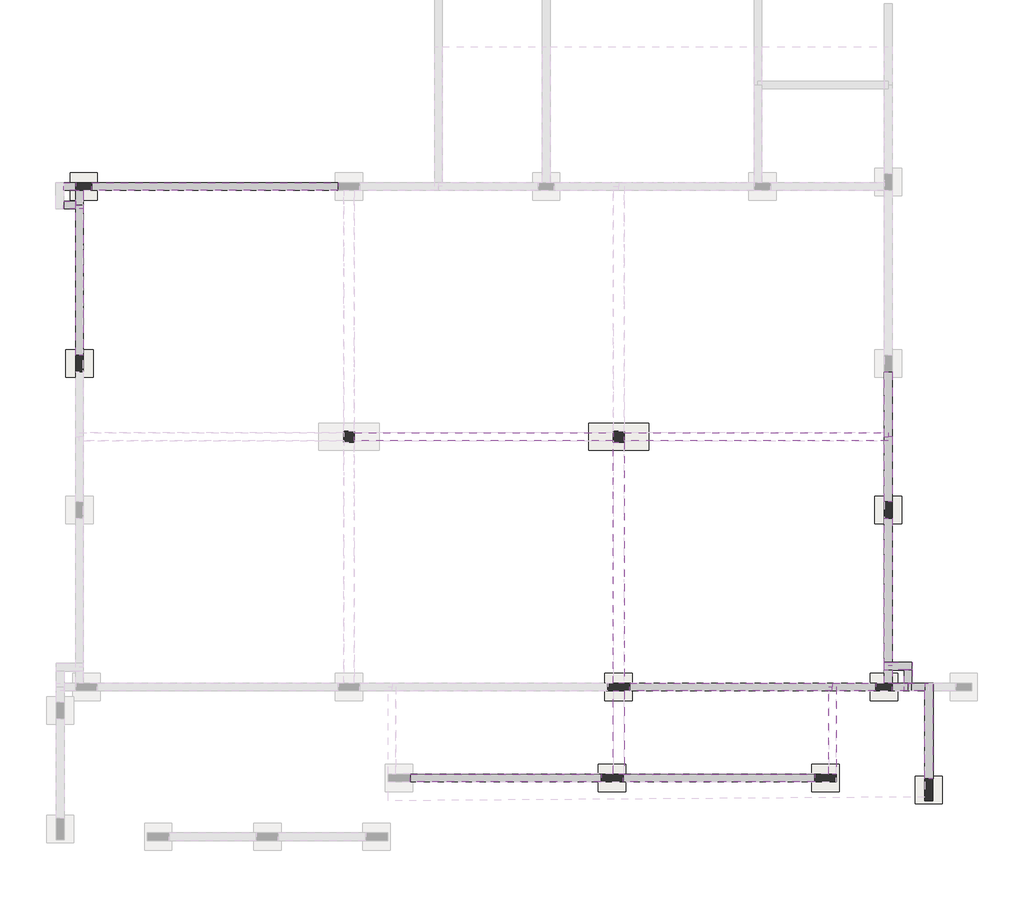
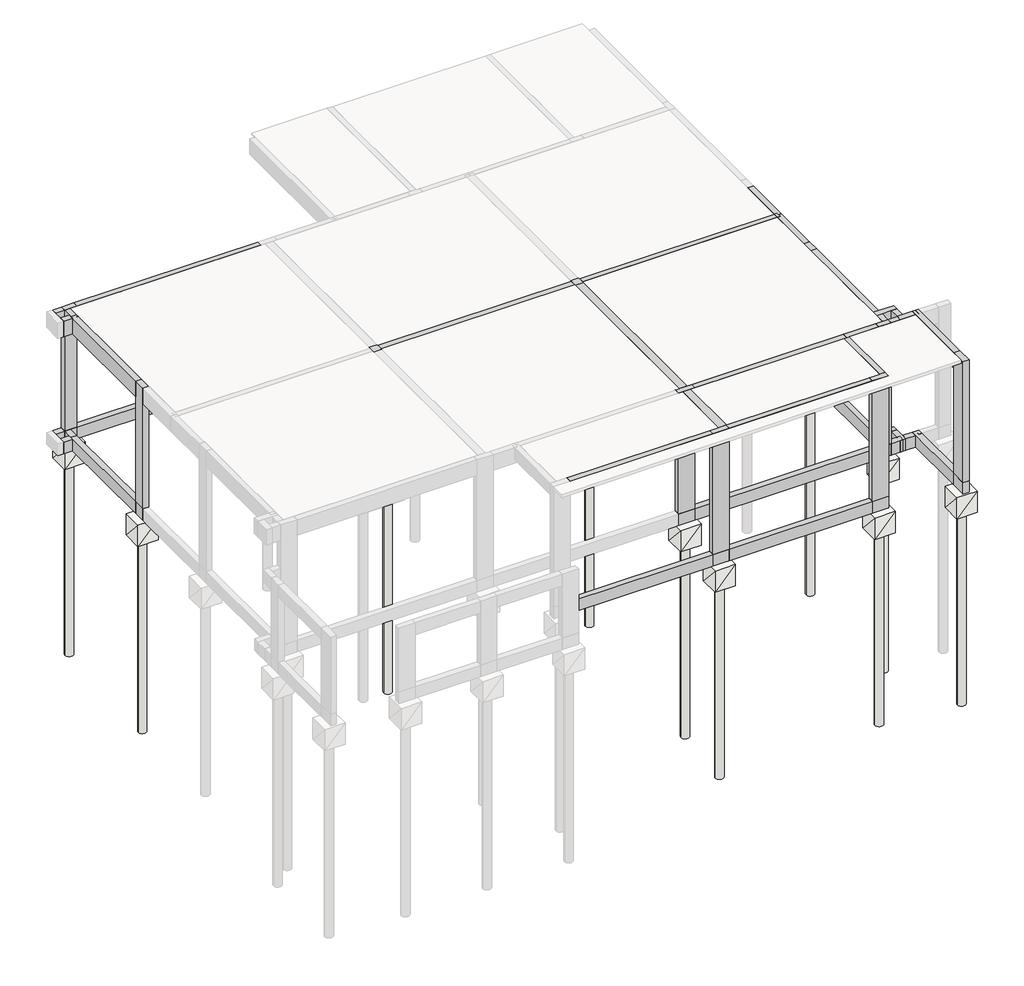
# One storey, part 2 of 3: 39 proxies, 20 columns, 20 slabs.
"""IFC4 building model written with IfcOpenShell, lengths in millimetres."""

from ifc_helpers import new_model, si_unit, frame, origin, place, context, project, spatial, polyline, outline, extrude, transform, mapped, element, save
from components import structural_framing_e2bcf46b, structural_framing_dbc896d8, structural_framing_8cd2586b, structural_framing_c78f2c7d, structural_framing_77b6ca6f, structural_framing_01de5d5a, structural_framing_92e5dd7b, structural_framing_e2ff165e, structural_framing_396bdc43, structural_framing_1b4c9a45, structural_framing_762ff612, structural_framing_144cb592, structural_framing_94598072, structural_framing_03c9d15c, structural_framing_dc82caa1, structural_framing_e9acf34c, structural_framing_6a9002ec, structural_framing_b230c8f5, structural_framing_8dfd1342, structural_framing_fc09ec62, structural_framing_2e8c135f, structural_framing_80dcf587, structural_framing_5a2c5dd1, structural_framing_e8406c5c, structural_framing_6d77a632, structural_framing_6e80b120, structural_framing_b381d96e, structural_framing_4ba866ab, structural_framing_17b98802, structural_framing_75dd6a97, structural_framing_b8469727, structural_framing_5bd5179d, structural_framing_b4b4ddb9, structural_framing_fa4ca75f, structural_framing_bc256635, structural_framing_0044cacd, slab_c764ccaf, slab_1d791855, slab_b31ccf51, slab_4ca8f48c

model = new_model("IFC4")

# Units and contexts
model_context = context("Model", 3, world=origin())
ifc_project = project(units=[si_unit("LENGTHUNIT", "METRE", prefix="MILLI")], contexts=[model_context])

# Site, building, storey
site = spatial("IfcSite", under=ifc_project)
building = spatial("IfcBuilding", under=site)
storey = spatial("IfcBuildingStorey", under=building, Name="BALDRAME-FUNDAÇÃO", Elevation=240.0)

# Proxies
placement = place(None, origin())
structural_framing_shape = structural_framing_e2bcf46b(model_context)
element("IfcBuildingElementProxy", 1, Name="Structural Framing", at=placement, inside=storey, context=model_context, shape_type="MappedRepresentation", body=[
    mapped(structural_framing_shape, transform((12564.05, 2810.0, 240.0), x_axis=(1.0, 0.0, 0.0), y_axis=(0.0, 1.0, 0.0), z_axis=(0.0, 0.0, 1.0))),
])
structural_framing_2_shape = structural_framing_dbc896d8(model_context)
element("IfcBuildingElementProxy", 2, Name="Structural Framing", at=placement, inside=storey, context=model_context, shape_type="MappedRepresentation", body=[
    mapped(structural_framing_2_shape, transform((15589.6, 2810.0, 240.0), x_axis=(1.0, 0.0, 0.0), y_axis=(0.0, 1.0, 0.0), z_axis=(0.0, 0.0, 1.0))),
])
structural_framing_3_shape = structural_framing_8cd2586b(model_context)
element("IfcBuildingElementProxy", 3, Name="Structural Framing", at=placement, inside=storey, context=model_context, shape_type="MappedRepresentation", body=[
    mapped(structural_framing_3_shape, transform((15256.85, 2810.0, 240.0), x_axis=(1.0, 0.0, 0.0), y_axis=(0.0, 1.0, 0.0), z_axis=(0.0, 0.0, 1.0))),
])
structural_framing_4_shape = structural_framing_c78f2c7d(model_context)
element("IfcBuildingElementProxy", 4, Name="Structural Framing", at=placement, inside=storey, context=model_context, shape_type="MappedRepresentation", body=[
    mapped(structural_framing_4_shape, transform((85.0, 11955.2, 240.0), x_axis=(1.0, 0.0, 0.0), y_axis=(0.0, 1.0, 0.0), z_axis=(0.0, 0.0, 1.0))),
])
structural_framing_5_shape = structural_framing_77b6ca6f(model_context)
element("IfcBuildingElementProxy", 5, Name="Structural Framing", at=placement, inside=storey, context=model_context, shape_type="MappedRepresentation", body=[
    mapped(structural_framing_5_shape, transform((2742.8, 11955.2, 240.0), x_axis=(1.0, 0.0, 0.0), y_axis=(0.0, 1.0, 0.0), z_axis=(0.0, 0.0, 1.0))),
])
structural_framing_6_shape = structural_framing_01de5d5a(model_context)
element("IfcBuildingElementProxy", 6, Name="Structural Framing", at=placement, inside=storey, context=model_context, shape_type="MappedRepresentation", body=[
    mapped(structural_framing_6_shape, transform((15041.8, 4542.5, 240.0), x_axis=(1.0, 0.0, 0.0), y_axis=(0.0, 1.0, 0.0), z_axis=(0.0, 0.0, 1.0))),
])
structural_framing_7_shape = structural_framing_92e5dd7b(model_context)
element("IfcBuildingElementProxy", 7, Name="Structural Framing", at=placement, inside=storey, context=model_context, shape_type="MappedRepresentation", body=[
    mapped(structural_framing_7_shape, transform((15041.8, 3000.0, 240.0), x_axis=(1.0, 0.0, 0.0), y_axis=(0.0, 1.0, 0.0), z_axis=(0.0, 0.0, 1.0))),
])
structural_framing_8_shape = structural_framing_e2ff165e(model_context)
element("IfcBuildingElementProxy", 8, Name="Structural Framing", at=placement, inside=storey, context=model_context, shape_type="MappedRepresentation", body=[
    mapped(structural_framing_8_shape, transform((15787.3, 2005.0, 240.0), x_axis=(1.0, 0.0, 0.0), y_axis=(0.0, 1.0, 0.0), z_axis=(0.0, 0.0, 1.0))),
])
structural_framing_9_shape = structural_framing_396bdc43(model_context)
element("IfcBuildingElementProxy", 9, Name="Structural Framing", at=placement, inside=storey, context=model_context, shape_type="MappedRepresentation", body=[
    mapped(structural_framing_9_shape, transform((15041.8, 7382.6, 240.0), x_axis=(1.0, 0.0, 0.0), y_axis=(0.0, 1.0, 0.0), z_axis=(0.0, 0.0, 1.0))),
])
structural_framing_10_shape = structural_framing_1b4c9a45(model_context)
element("IfcBuildingElementProxy", 10, Name="Structural Framing", at=placement, inside=storey, context=model_context, shape_type="MappedRepresentation", body=[
    mapped(structural_framing_10_shape, transform((15221.85, 3190.0, 240.0), x_axis=(1.0, 0.0, 0.0), y_axis=(0.0, 1.0, 0.0), z_axis=(0.0, 0.0, 1.0))),
])
structural_framing_11_shape = structural_framing_762ff612(model_context)
element("IfcBuildingElementProxy", 11, Name="Structural Framing", at=placement, inside=storey, context=model_context, shape_type="MappedRepresentation", body=[
    mapped(structural_framing_11_shape, transform((15401.9, 2930.0, 240.0), x_axis=(1.0, 0.0, 0.0), y_axis=(0.0, 1.0, 0.0), z_axis=(0.0, 0.0, 1.0))),
])
structural_framing_12_shape = structural_framing_144cb592(model_context)
element("IfcBuildingElementProxy", 12, Name="Structural Framing", at=placement, inside=storey, context=model_context, shape_type="MappedRepresentation", body=[
    mapped(structural_framing_12_shape, transform((265.0, 11715.2, 240.0), x_axis=(1.0, 0.0, 0.0), y_axis=(0.0, 1.0, 0.0), z_axis=(0.0, 0.0, 1.0))),
])
structural_framing_13_shape = structural_framing_94598072(model_context)
element("IfcBuildingElementProxy", 13, Name="Structural Framing", at=placement, inside=storey, context=model_context, shape_type="MappedRepresentation", body=[
    mapped(structural_framing_13_shape, transform((265.0, 10242.7, 240.0), x_axis=(1.0, 0.0, 0.0), y_axis=(0.0, 1.0, 0.0), z_axis=(0.0, 0.0, 1.0))),
])
structural_framing_14_shape = structural_framing_03c9d15c(model_context)
element("IfcBuildingElementProxy", 14, Name="Structural Framing", at=placement, inside=storey, context=model_context, shape_type="MappedRepresentation", body=[
    mapped(structural_framing_14_shape, transform((8051.9, 1150.0, 240.0), x_axis=(1.0, 0.0, 0.0), y_axis=(0.0, 1.0, 0.0), z_axis=(0.0, 0.0, 1.0))),
])
structural_framing_15_shape = structural_framing_dc82caa1(model_context)
element("IfcBuildingElementProxy", 15, Name="Structural Framing", at=placement, inside=storey, context=model_context, shape_type="MappedRepresentation", body=[
    mapped(structural_framing_15_shape, transform((11946.9, 1150.0, 240.0), x_axis=(1.0, 0.0, 0.0), y_axis=(0.0, 1.0, 0.0), z_axis=(0.0, 0.0, 1.0))),
])
structural_framing_16_shape = structural_framing_e9acf34c(model_context)
element("IfcBuildingElementProxy", 16, Name="Structural Framing", at=placement, inside=storey, context=model_context, shape_type="MappedRepresentation", body=[
    mapped(structural_framing_16_shape, transform((85.0, 11615.2, 240.0), x_axis=(1.0, 0.0, 0.0), y_axis=(0.0, 1.0, 0.0), z_axis=(0.0, 0.0, 1.0))),
])
structural_framing_17_shape = structural_framing_6a9002ec(model_context)
element("IfcBuildingElementProxy", 17, Name="Structural Framing", at=placement, inside=storey, context=model_context, shape_type="MappedRepresentation", body=[
    mapped(structural_framing_17_shape, transform((10116.3, 1980.0, 3360.0), x_axis=(1.0, 0.0, 0.0), y_axis=(0.0, 1.0, 0.0), z_axis=(0.0, 0.0, 1.0))),
])
structural_framing_18_shape = structural_framing_b230c8f5(model_context)
element("IfcBuildingElementProxy", 18, Name="Structural Framing", at=placement, inside=storey, context=model_context, shape_type="MappedRepresentation", body=[
    mapped(structural_framing_18_shape, transform((265.0, 11715.2, 3360.0), x_axis=(1.0, 0.0, 0.0), y_axis=(0.0, 1.0, 0.0), z_axis=(0.0, 0.0, 1.0))),
])
structural_framing_19_shape = structural_framing_8dfd1342(model_context)
element("IfcBuildingElementProxy", 19, Name="Structural Framing", at=placement, inside=storey, context=model_context, shape_type="MappedRepresentation", body=[
    mapped(structural_framing_19_shape, transform((265.0, 10242.7, 3360.0), x_axis=(1.0, 0.0, 0.0), y_axis=(0.0, 1.0, 0.0), z_axis=(0.0, 0.0, 1.0))),
])
structural_framing_20_shape = structural_framing_fc09ec62(model_context)
element("IfcBuildingElementProxy", 20, Name="Structural Framing", at=placement, inside=storey, context=model_context, shape_type="MappedRepresentation", body=[
    mapped(structural_framing_20_shape, transform((85.0, 11955.2, 3360.0), x_axis=(1.0, 0.0, 0.0), y_axis=(0.0, 1.0, 0.0), z_axis=(0.0, 0.0, 1.0))),
])
structural_framing_21_shape = structural_framing_2e8c135f(model_context)
element("IfcBuildingElementProxy", 21, Name="Structural Framing", at=placement, inside=storey, context=model_context, shape_type="MappedRepresentation", body=[
    mapped(structural_framing_21_shape, transform((2742.8, 11955.2, 3360.0), x_axis=(1.0, 0.0, 0.0), y_axis=(0.0, 1.0, 0.0), z_axis=(0.0, 0.0, 1.0))),
])
structural_framing_22_shape = structural_framing_80dcf587(model_context)
element("IfcBuildingElementProxy", 22, Name="Structural Framing", at=placement, inside=storey, context=model_context, shape_type="MappedRepresentation", body=[
    mapped(structural_framing_22_shape, transform((15782.3, 2005.0, 3360.0), x_axis=(1.0, 0.0, 0.0), y_axis=(0.0, 1.0, 0.0), z_axis=(0.0, 0.0, 1.0))),
])
structural_framing_23_shape = structural_framing_5a2c5dd1(model_context)
element("IfcBuildingElementProxy", 23, Name="Structural Framing", at=placement, inside=storey, context=model_context, shape_type="MappedRepresentation", body=[
    mapped(structural_framing_23_shape, transform((10116.3, 5081.3, 3360.0), x_axis=(1.0, 0.0, 0.0), y_axis=(0.0, 1.0, 0.0), z_axis=(0.0, 0.0, 1.0))),
])
structural_framing_24_shape = structural_framing_e8406c5c(model_context)
element("IfcBuildingElementProxy", 24, Name="Structural Framing", at=placement, inside=storey, context=model_context, shape_type="MappedRepresentation", body=[
    mapped(structural_framing_24_shape, transform((12629.05, 7382.6, 3360.0), x_axis=(1.0, 0.0, 0.0), y_axis=(0.0, 1.0, 0.0), z_axis=(0.0, 0.0, 1.0))),
])
structural_framing_25_shape = structural_framing_6d77a632(model_context)
element("IfcBuildingElementProxy", 25, Name="Structural Framing", at=placement, inside=storey, context=model_context, shape_type="MappedRepresentation", body=[
    mapped(structural_framing_25_shape, transform((7653.45, 7382.6, 3360.0), x_axis=(1.0, 0.0, 0.0), y_axis=(0.0, 1.0, 0.0), z_axis=(0.0, 0.0, 1.0))),
])
structural_framing_26_shape = structural_framing_6e80b120(model_context)
element("IfcBuildingElementProxy", 26, Name="Structural Framing", at=placement, inside=storey, context=model_context, shape_type="MappedRepresentation", body=[
    mapped(structural_framing_26_shape, transform((15522.1, 2810.0, 3360.0), x_axis=(1.0, 0.0, 0.0), y_axis=(0.0, 1.0, 0.0), z_axis=(0.0, 0.0, 1.0))),
])
structural_framing_27_shape = structural_framing_b381d96e(model_context)
element("IfcBuildingElementProxy", 27, Name="Structural Framing", at=placement, inside=storey, context=model_context, shape_type="MappedRepresentation", body=[
    mapped(structural_framing_27_shape, transform((15259.35, 2810.0, 3360.0), x_axis=(1.0, 0.0, 0.0), y_axis=(0.0, 1.0, 0.0), z_axis=(0.0, 0.0, 1.0))),
])
structural_framing_28_shape = structural_framing_4ba866ab(model_context)
element("IfcBuildingElementProxy", 28, Name="Structural Framing", at=placement, inside=storey, context=model_context, shape_type="MappedRepresentation", body=[
    mapped(structural_framing_28_shape, transform((15224.35, 3195.0, 3360.0), x_axis=(1.0, 0.0, 0.0), y_axis=(0.0, 1.0, 0.0), z_axis=(0.0, 0.0, 1.0))),
])
structural_framing_29_shape = structural_framing_17b98802(model_context)
element("IfcBuildingElementProxy", 29, Name="Structural Framing", at=placement, inside=storey, context=model_context, shape_type="MappedRepresentation", body=[
    mapped(structural_framing_29_shape, transform((15406.9, 3002.5, 3360.0), x_axis=(1.0, 0.0, 0.0), y_axis=(0.0, 1.0, 0.0), z_axis=(0.0, 0.0, 1.0))),
])
structural_framing_30_shape = structural_framing_75dd6a97(model_context)
element("IfcBuildingElementProxy", 30, Name="Structural Framing", at=placement, inside=storey, context=model_context, shape_type="MappedRepresentation", body=[
    mapped(structural_framing_30_shape, transform((15041.8, 3002.5, 3360.0), x_axis=(1.0, 0.0, 0.0), y_axis=(0.0, 1.0, 0.0), z_axis=(0.0, 0.0, 1.0))),
])
structural_framing_31_shape = structural_framing_b8469727(model_context)
element("IfcBuildingElementProxy", 31, Name="Structural Framing", at=placement, inside=storey, context=model_context, shape_type="MappedRepresentation", body=[
    mapped(structural_framing_31_shape, transform((15041.8, 4545.0, 3360.0), x_axis=(1.0, 0.0, 0.0), y_axis=(0.0, 1.0, 0.0), z_axis=(0.0, 0.0, 1.0))),
])
structural_framing_32_shape = structural_framing_5bd5179d(model_context)
element("IfcBuildingElementProxy", 32, Name="Structural Framing", at=placement, inside=storey, context=model_context, shape_type="MappedRepresentation", body=[
    mapped(structural_framing_32_shape, transform((85.0, 11615.2, 3360.0), x_axis=(1.0, 0.0, 0.0), y_axis=(0.0, 1.0, 0.0), z_axis=(0.0, 0.0, 1.0))),
])
structural_framing_33_shape = structural_framing_b4b4ddb9(model_context)
element("IfcBuildingElementProxy", 33, Name="Structural Framing", at=placement, inside=storey, context=model_context, shape_type="MappedRepresentation", body=[
    mapped(structural_framing_33_shape, transform((14416.85, 2810.0, 3360.0), x_axis=(1.0, 0.0, 0.0), y_axis=(0.0, 1.0, 0.0), z_axis=(0.0, 0.0, 1.0))),
])
structural_framing_34_shape = structural_framing_fa4ca75f(model_context)
element("IfcBuildingElementProxy", 34, Name="Structural Framing", at=placement, inside=storey, context=model_context, shape_type="MappedRepresentation", body=[
    mapped(structural_framing_34_shape, transform((12169.1, 2810.0, 3360.0), x_axis=(1.0, 0.0, 0.0), y_axis=(0.0, 1.0, 0.0), z_axis=(0.0, 0.0, 1.0))),
])
structural_framing_35_shape = structural_framing_bc256635(model_context)
element("IfcBuildingElementProxy", 35, Name="Structural Framing", at=placement, inside=storey, context=model_context, shape_type="MappedRepresentation", body=[
    mapped(structural_framing_35_shape, transform((14021.9, 2015.0, 3360.0), x_axis=(1.0, 0.0, 0.0), y_axis=(0.0, 1.0, 0.0), z_axis=(0.0, 0.0, 1.0))),
])
structural_framing_36_shape = structural_framing_0044cacd(model_context)
element("IfcBuildingElementProxy", 36, Name="Structural Framing", at=placement, inside=storey, context=model_context, shape_type="MappedRepresentation", body=[
    mapped(structural_framing_36_shape, transform((15041.8, 6788.8, 3360.0), x_axis=(1.0, 0.0, 0.0), y_axis=(0.0, 1.0, 0.0), z_axis=(0.0, 0.0, 1.0))),
])
element("IfcBuildingElementProxy", 37, Name="Structural Framing", at=placement, inside=storey, context=model_context, shape_type="MappedRepresentation", body=[
    mapped(structural_framing_36_shape, transform((15041.8, 7976.4, 3360.0), x_axis=(1.0, 0.0, 0.0), y_axis=(0.0, 1.0, 0.0), z_axis=(0.0, 0.0, 1.0))),
])
element("IfcBuildingElementProxy", 38, Name="Structural Framing", at=placement, inside=storey, context=model_context, shape_type="MappedRepresentation", body=[
    mapped(structural_framing_14_shape, transform((8051.9, 1150.0, 3360.0), x_axis=(1.0, 0.0, 0.0), y_axis=(0.0, 1.0, 0.0), z_axis=(0.0, 0.0, 1.0))),
])
element("IfcBuildingElementProxy", 39, Name="Structural Framing", at=placement, inside=storey, context=model_context, shape_type="MappedRepresentation", body=[
    mapped(structural_framing_15_shape, transform((11946.9, 1150.0, 3360.0), x_axis=(1.0, 0.0, 0.0), y_axis=(0.0, 1.0, 0.0), z_axis=(0.0, 0.0, 1.0))),
])

# Columns
element("IfcColumn", 40, at=placement, inside=storey, context=model_context, shape_type="SweptSolid", body=[
    extrude(outline(polyline([(495.0, 12025.2), (495.0, 11885.2), (195.0, 11885.2), (195.0, 12025.2), (495.0, 12025.2)])), frame((0.0, 0.0, -60.0), z_axis=(0.0, 0.0, 1.0), x_axis=(1.0, 0.0, 0.0)), (0.0, 0.0, 1.0), 300.0),
    extrude(outline(polyline([(495.0, 12025.2), (495.0, 11885.2), (195.0, 11885.2), (195.0, 12025.2), (495.0, 12025.2)])), frame((0.0, 0.0, -60.0), z_axis=(0.0, 0.0, 1.0), x_axis=(1.0, 0.0, 0.0)), (0.0, 0.0, 1.0), 300.0),
])
element("IfcColumn", 41, at=placement, inside=storey, context=model_context, shape_type="SweptSolid", body=[
    extrude(outline(polyline([(15111.8, 2880.0), (15111.8, 2740.0), (14811.8, 2740.0), (14811.8, 2880.0), (15111.8, 2880.0)])), frame((0.0, 0.0, -60.0), z_axis=(0.0, 0.0, 1.0), x_axis=(1.0, 0.0, 0.0)), (0.0, 0.0, 1.0), 300.0),
    extrude(outline(polyline([(15111.8, 2880.0), (15111.8, 2740.0), (14811.8, 2740.0), (14811.8, 2880.0), (15111.8, 2880.0)])), frame((0.0, 0.0, -60.0), z_axis=(0.0, 0.0, 1.0), x_axis=(1.0, 0.0, 0.0)), (0.0, 0.0, 1.0), 300.0),
])
element("IfcColumn", 42, at=placement, inside=storey, context=model_context, shape_type="SweptSolid", body=[
    extrude(outline(polyline([(5090.6, 7482.6), (5290.6, 7482.6), (5290.6, 7282.6), (5090.6, 7282.6), (5090.6, 7482.6)])), frame((0.0, 0.0, -60.0), z_axis=(0.0, 0.0, 1.0), x_axis=(1.0, 0.0, 0.0)), (0.0, 0.0, 1.0), 300.0),
    extrude(outline(polyline([(5090.6, 7482.6), (5290.6, 7482.6), (5290.6, 7282.6), (5090.6, 7282.6), (5090.6, 7482.6)])), frame((0.0, 0.0, -60.0), z_axis=(0.0, 0.0, 1.0), x_axis=(1.0, 0.0, 0.0)), (0.0, 0.0, 1.0), 300.0),
])
element("IfcColumn", 43, at=placement, inside=storey, context=model_context, shape_type="SweptSolid", body=[
    extrude(outline(polyline([(10016.3, 7482.6), (10216.3, 7482.6), (10216.3, 7282.6), (10016.3, 7282.6), (10016.3, 7482.6)])), frame((0.0, 0.0, -60.0), z_axis=(0.0, 0.0, 1.0), x_axis=(1.0, 0.0, 0.0)), (0.0, 0.0, 1.0), 300.0),
    extrude(outline(polyline([(10016.3, 7482.6), (10216.3, 7482.6), (10216.3, 7282.6), (10016.3, 7282.6), (10016.3, 7482.6)])), frame((0.0, 0.0, -60.0), z_axis=(0.0, 0.0, 1.0), x_axis=(1.0, 0.0, 0.0)), (0.0, 0.0, 1.0), 300.0),
])
element("IfcColumn", 44, at=placement, inside=storey, context=model_context, shape_type="SweptSolid", body=[
    extrude(outline(polyline([(10316.3, 2880.0), (10316.3, 2740.0), (9916.3, 2740.0), (9916.3, 2880.0), (10316.3, 2880.0)])), frame((0.0, 0.0, -60.0), z_axis=(0.0, 0.0, 1.0), x_axis=(1.0, 0.0, 0.0)), (0.0, 0.0, 1.0), 300.0),
    extrude(outline(polyline([(10316.3, 2880.0), (10316.3, 2740.0), (9916.3, 2740.0), (9916.3, 2880.0), (10316.3, 2880.0)])), frame((0.0, 0.0, -60.0), z_axis=(0.0, 0.0, 1.0), x_axis=(1.0, 0.0, 0.0)), (0.0, 0.0, 1.0), 300.0),
])
element("IfcColumn", 45, at=placement, inside=storey, context=model_context, shape_type="SweptSolid", body=[
    extrude(outline(polyline([(195.0, 8870.2), (335.0, 8870.2), (335.0, 8570.2), (195.0, 8570.2), (195.0, 8870.2)])), frame((0.0, 0.0, -60.0), z_axis=(0.0, 0.0, 1.0), x_axis=(1.0, 0.0, 0.0)), (0.0, 0.0, 1.0), 300.0),
    extrude(outline(polyline([(195.0, 8870.2), (335.0, 8870.2), (335.0, 8570.2), (195.0, 8570.2), (195.0, 8870.2)])), frame((0.0, 0.0, -60.0), z_axis=(0.0, 0.0, 1.0), x_axis=(1.0, 0.0, 0.0)), (0.0, 0.0, 1.0), 300.0),
])
element("IfcColumn", 46, at=placement, inside=storey, context=model_context, shape_type="SweptSolid", body=[
    extrude(outline(polyline([(14971.9, 6195.0), (15111.9, 6195.0), (15111.9, 5895.0), (14971.9, 5895.0), (14971.9, 6195.0)])), frame((0.0, 0.0, -60.0), z_axis=(0.0, 0.0, 1.0), x_axis=(1.0, 0.0, 0.0)), (0.0, 0.0, 1.0), 300.0),
    extrude(outline(polyline([(14971.9, 6195.0), (15111.9, 6195.0), (15111.9, 5895.0), (14971.9, 5895.0), (14971.9, 6195.0)])), frame((0.0, 0.0, -60.0), z_axis=(0.0, 0.0, 1.0), x_axis=(1.0, 0.0, 0.0)), (0.0, 0.0, 1.0), 300.0),
])
element("IfcColumn", 47, at=placement, inside=storey, context=model_context, shape_type="SweptSolid", body=[
    extrude(outline(polyline([(10196.9, 1220.0), (10196.9, 1080.0), (9796.9, 1080.0), (9796.9, 1220.0), (10196.9, 1220.0)])), frame((0.0, 0.0, -60.0), z_axis=(0.0, 0.0, 1.0), x_axis=(1.0, 0.0, 0.0)), (0.0, 0.0, 1.0), 300.0),
    extrude(outline(polyline([(10196.9, 1220.0), (10196.9, 1080.0), (9796.9, 1080.0), (9796.9, 1220.0), (10196.9, 1220.0)])), frame((0.0, 0.0, -60.0), z_axis=(0.0, 0.0, 1.0), x_axis=(1.0, 0.0, 0.0)), (0.0, 0.0, 1.0), 300.0),
])
element("IfcColumn", 48, at=placement, inside=storey, context=model_context, shape_type="SweptSolid", body=[
    extrude(outline(polyline([(14096.9, 1220.0), (14096.9, 1080.0), (13696.9, 1080.0), (13696.9, 1220.0), (14096.9, 1220.0)])), frame((0.0, 0.0, -60.0), z_axis=(0.0, 0.0, 1.0), x_axis=(1.0, 0.0, 0.0)), (0.0, 0.0, 1.0), 300.0),
    extrude(outline(polyline([(14096.9, 1220.0), (14096.9, 1080.0), (13696.9, 1080.0), (13696.9, 1220.0), (14096.9, 1220.0)])), frame((0.0, 0.0, -60.0), z_axis=(0.0, 0.0, 1.0), x_axis=(1.0, 0.0, 0.0)), (0.0, 0.0, 1.0), 300.0),
])
element("IfcColumn", 49, at=placement, inside=storey, context=model_context, shape_type="SweptSolid", body=[
    extrude(outline(polyline([(15707.3, 1130.0), (15857.3, 1130.0), (15857.3, 730.0), (15707.3, 730.0), (15707.3, 1130.0)])), frame((0.0, 0.0, -60.0), z_axis=(0.0, 0.0, 1.0), x_axis=(1.0, 0.0, 0.0)), (0.0, 0.0, 1.0), 300.0),
    extrude(outline(polyline([(15707.3, 1130.0), (15857.3, 1130.0), (15857.3, 730.0), (15707.3, 730.0), (15707.3, 1130.0)])), frame((0.0, 0.0, -60.0), z_axis=(0.0, 0.0, 1.0), x_axis=(1.0, 0.0, 0.0)), (0.0, 0.0, 1.0), 300.0),
])
element("IfcColumn", 50, at=placement, inside=storey, context=model_context, shape_type="SweptSolid", body=[
    extrude(outline(polyline([(5090.6, 7482.6), (5290.6, 7482.6), (5290.6, 7282.6), (5090.6, 7282.6), (5090.6, 7482.6)])), frame((0.0, 0.0, 240.0), z_axis=(0.0, 0.0, 1.0), x_axis=(1.0, 0.0, 0.0)), (0.0, 0.0, 1.0), 3120.0),
    extrude(outline(polyline([(5090.6, 7482.6), (5290.6, 7482.6), (5290.6, 7282.6), (5090.6, 7282.6), (5090.6, 7482.6)])), frame((0.0, 0.0, 240.0), z_axis=(0.0, 0.0, 1.0), x_axis=(1.0, 0.0, 0.0)), (0.0, 0.0, 1.0), 3120.0),
])
element("IfcColumn", 51, at=placement, inside=storey, context=model_context, shape_type="SweptSolid", body=[
    extrude(outline(polyline([(10016.3, 7482.6), (10216.3, 7482.6), (10216.3, 7282.6), (10016.3, 7282.6), (10016.3, 7482.6)])), frame((0.0, 0.0, 240.0), z_axis=(0.0, 0.0, 1.0), x_axis=(1.0, 0.0, 0.0)), (0.0, 0.0, 1.0), 3120.0),
    extrude(outline(polyline([(10016.3, 7482.6), (10216.3, 7482.6), (10216.3, 7282.6), (10016.3, 7282.6), (10016.3, 7482.6)])), frame((0.0, 0.0, 240.0), z_axis=(0.0, 0.0, 1.0), x_axis=(1.0, 0.0, 0.0)), (0.0, 0.0, 1.0), 3120.0),
])
element("IfcColumn", 52, at=placement, inside=storey, context=model_context, shape_type="SweptSolid", body=[
    extrude(outline(polyline([(10316.3, 2880.0), (10316.3, 2740.0), (9916.3, 2740.0), (9916.3, 2880.0), (10316.3, 2880.0)])), frame((0.0, 0.0, 240.0), z_axis=(0.0, 0.0, 1.0), x_axis=(1.0, 0.0, 0.0)), (0.0, 0.0, 1.0), 3120.0),
    extrude(outline(polyline([(10316.3, 2880.0), (10316.3, 2740.0), (9916.3, 2740.0), (9916.3, 2880.0), (10316.3, 2880.0)])), frame((0.0, 0.0, 240.0), z_axis=(0.0, 0.0, 1.0), x_axis=(1.0, 0.0, 0.0)), (0.0, 0.0, 1.0), 3120.0),
])
element("IfcColumn", 53, at=placement, inside=storey, context=model_context, shape_type="SweptSolid", body=[
    extrude(outline(polyline([(15707.3, 1130.0), (15857.3, 1130.0), (15857.3, 730.0), (15707.3, 730.0), (15707.3, 1130.0)])), frame((0.0, 0.0, 240.0), z_axis=(0.0, 0.0, 1.0), x_axis=(1.0, 0.0, 0.0)), (0.0, 0.0, 1.0), 3120.0),
    extrude(outline(polyline([(15707.3, 1130.0), (15857.3, 1130.0), (15857.3, 730.0), (15707.3, 730.0), (15707.3, 1130.0)])), frame((0.0, 0.0, 240.0), z_axis=(0.0, 0.0, 1.0), x_axis=(1.0, 0.0, 0.0)), (0.0, 0.0, 1.0), 3120.0),
])
element("IfcColumn", 54, at=placement, inside=storey, context=model_context, shape_type="SweptSolid", body=[
    extrude(outline(polyline([(14096.9, 1220.0), (14096.9, 1080.0), (13696.9, 1080.0), (13696.9, 1220.0), (14096.9, 1220.0)])), frame((0.0, 0.0, 240.0), z_axis=(0.0, 0.0, 1.0), x_axis=(1.0, 0.0, 0.0)), (0.0, 0.0, 1.0), 3120.0),
    extrude(outline(polyline([(14096.9, 1220.0), (14096.9, 1080.0), (13696.9, 1080.0), (13696.9, 1220.0), (14096.9, 1220.0)])), frame((0.0, 0.0, 240.0), z_axis=(0.0, 0.0, 1.0), x_axis=(1.0, 0.0, 0.0)), (0.0, 0.0, 1.0), 3120.0),
])
element("IfcColumn", 55, at=placement, inside=storey, context=model_context, shape_type="SweptSolid", body=[
    extrude(outline(polyline([(195.0, 8870.2), (335.0, 8870.2), (335.0, 8570.2), (195.0, 8570.2), (195.0, 8870.2)])), frame((0.0, 0.0, 240.0), z_axis=(0.0, 0.0, 1.0), x_axis=(1.0, 0.0, 0.0)), (0.0, 0.0, 1.0), 3120.0),
    extrude(outline(polyline([(195.0, 8870.2), (335.0, 8870.2), (335.0, 8570.2), (195.0, 8570.2), (195.0, 8870.2)])), frame((0.0, 0.0, 240.0), z_axis=(0.0, 0.0, 1.0), x_axis=(1.0, 0.0, 0.0)), (0.0, 0.0, 1.0), 3120.0),
])
element("IfcColumn", 56, at=placement, inside=storey, context=model_context, shape_type="SweptSolid", body=[
    extrude(outline(polyline([(15111.8, 2880.0), (15111.8, 2740.0), (14811.8, 2740.0), (14811.8, 2880.0), (15111.8, 2880.0)])), frame((0.0, 0.0, 240.0), z_axis=(0.0, 0.0, 1.0), x_axis=(1.0, 0.0, 0.0)), (0.0, 0.0, 1.0), 3120.0),
    extrude(outline(polyline([(15111.8, 2880.0), (15111.8, 2740.0), (14811.8, 2740.0), (14811.8, 2880.0), (15111.8, 2880.0)])), frame((0.0, 0.0, 240.0), z_axis=(0.0, 0.0, 1.0), x_axis=(1.0, 0.0, 0.0)), (0.0, 0.0, 1.0), 3120.0),
])
element("IfcColumn", 57, at=placement, inside=storey, context=model_context, shape_type="SweptSolid", body=[
    extrude(outline(polyline([(14971.9, 6195.0), (15111.9, 6195.0), (15111.9, 5895.0), (14971.9, 5895.0), (14971.9, 6195.0)])), frame((0.0, 0.0, 240.0), z_axis=(0.0, 0.0, 1.0), x_axis=(1.0, 0.0, 0.0)), (0.0, 0.0, 1.0), 3120.0),
    extrude(outline(polyline([(14971.9, 6195.0), (15111.9, 6195.0), (15111.9, 5895.0), (14971.9, 5895.0), (14971.9, 6195.0)])), frame((0.0, 0.0, 240.0), z_axis=(0.0, 0.0, 1.0), x_axis=(1.0, 0.0, 0.0)), (0.0, 0.0, 1.0), 3120.0),
])
element("IfcColumn", 58, at=placement, inside=storey, context=model_context, shape_type="SweptSolid", body=[
    extrude(outline(polyline([(10196.9, 1220.0), (10196.9, 1080.0), (9796.9, 1080.0), (9796.9, 1220.0), (10196.9, 1220.0)])), frame((0.0, 0.0, 240.0), z_axis=(0.0, 0.0, 1.0), x_axis=(1.0, 0.0, 0.0)), (0.0, 0.0, 1.0), 3120.0),
    extrude(outline(polyline([(10196.9, 1220.0), (10196.9, 1080.0), (9796.9, 1080.0), (9796.9, 1220.0), (10196.9, 1220.0)])), frame((0.0, 0.0, 240.0), z_axis=(0.0, 0.0, 1.0), x_axis=(1.0, 0.0, 0.0)), (0.0, 0.0, 1.0), 3120.0),
])
element("IfcColumn", 59, at=placement, inside=storey, context=model_context, shape_type="SweptSolid", body=[
    extrude(outline(polyline([(495.0, 12025.2), (495.0, 11885.2), (195.0, 11885.2), (195.0, 12025.2), (495.0, 12025.2)])), frame((0.0, 0.0, 240.0), z_axis=(0.0, 0.0, 1.0), x_axis=(1.0, 0.0, 0.0)), (0.0, 0.0, 1.0), 3120.0),
    extrude(outline(polyline([(495.0, 12025.2), (495.0, 11885.2), (195.0, 11885.2), (195.0, 12025.2), (495.0, 12025.2)])), frame((0.0, 0.0, 240.0), z_axis=(0.0, 0.0, 1.0), x_axis=(1.0, 0.0, 0.0)), (0.0, 0.0, 1.0), 3120.0),
])

# Slabs
slab_shape = slab_c764ccaf(model_context)
element("IfcSlab", 60, at=placement, inside=storey, context=model_context, shape_type="MappedRepresentation", body=[
    mapped(slab_shape, transform((14961.8, 2810.0, -60.0), x_axis=(1.0, 0.0, 0.0), y_axis=(0.0, 1.0, 0.0), z_axis=(0.0, 0.0, 1.0))),
])
slab_2_shape = slab_1d791855(model_context)
element("IfcSlab", 61, at=placement, inside=storey, context=model_context, shape_type="MappedRepresentation", body=[
    mapped(slab_2_shape, transform((14961.8, 2810.0, -460.0), x_axis=(1.0, 0.0, 0.0), y_axis=(0.0, 1.0, 0.0), z_axis=(0.0, 0.0, 1.0))),
])
slab_3_shape = slab_b31ccf51(model_context)
element("IfcSlab", 62, at=placement, inside=storey, context=model_context, shape_type="MappedRepresentation", body=[
    mapped(slab_3_shape, transform((15041.9, 6045.0, -60.0), x_axis=(1.0, 0.0, 0.0), y_axis=(0.0, 1.0, 0.0), z_axis=(0.0, 0.0, 1.0))),
])
element("IfcSlab", 63, at=placement, inside=storey, context=model_context, shape_type="MappedRepresentation", body=[
    mapped(slab_2_shape, transform((15041.9, 6045.0, -460.0), x_axis=(1.0, 0.0, 0.0), y_axis=(0.0, 1.0, 0.0), z_axis=(0.0, 0.0, 1.0))),
])
element("IfcSlab", 64, at=placement, inside=storey, context=model_context, shape_type="MappedRepresentation", body=[
    mapped(slab_shape, transform((10116.3, 2810.0, -60.0), x_axis=(1.0, 0.0, 0.0), y_axis=(0.0, 1.0, 0.0), z_axis=(0.0, 0.0, 1.0))),
])
element("IfcSlab", 65, at=placement, inside=storey, context=model_context, shape_type="MappedRepresentation", body=[
    mapped(slab_2_shape, transform((10116.3, 2810.0, -460.0), x_axis=(1.0, 0.0, 0.0), y_axis=(0.0, 1.0, 0.0), z_axis=(0.0, 0.0, 1.0))),
])
element("IfcSlab", 66, at=placement, inside=storey, context=model_context, shape_type="MappedRepresentation", body=[
    mapped(slab_shape, transform((9996.9, 1150.0, -60.0), x_axis=(1.0, 0.0, 0.0), y_axis=(0.0, 1.0, 0.0), z_axis=(0.0, 0.0, 1.0))),
])
element("IfcSlab", 67, at=placement, inside=storey, context=model_context, shape_type="MappedRepresentation", body=[
    mapped(slab_2_shape, transform((9996.9, 1150.0, -460.0), x_axis=(1.0, 0.0, 0.0), y_axis=(0.0, 1.0, 0.0), z_axis=(0.0, 0.0, 1.0))),
])
element("IfcSlab", 68, at=placement, inside=storey, context=model_context, shape_type="MappedRepresentation", body=[
    mapped(slab_shape, transform((13896.9, 1150.0, -60.0), x_axis=(1.0, 0.0, 0.0), y_axis=(0.0, 1.0, 0.0), z_axis=(0.0, 0.0, 1.0))),
])
element("IfcSlab", 69, at=placement, inside=storey, context=model_context, shape_type="MappedRepresentation", body=[
    mapped(slab_2_shape, transform((13896.9, 1150.0, -460.0), x_axis=(1.0, 0.0, 0.0), y_axis=(0.0, 1.0, 0.0), z_axis=(0.0, 0.0, 1.0))),
])
element("IfcSlab", 70, at=placement, inside=storey, context=model_context, shape_type="MappedRepresentation", body=[
    mapped(slab_3_shape, transform((15782.3, 930.0, -60.0), x_axis=(1.0, 0.0, 0.0), y_axis=(0.0, 1.0, 0.0), z_axis=(0.0, 0.0, 1.0))),
])
element("IfcSlab", 71, at=placement, inside=storey, context=model_context, shape_type="MappedRepresentation", body=[
    mapped(slab_2_shape, transform((15782.3, 930.0, -460.0), x_axis=(1.0, 0.0, 0.0), y_axis=(0.0, 1.0, 0.0), z_axis=(0.0, 0.0, 1.0))),
])
element("IfcSlab", 72, at=placement, inside=storey, context=model_context, shape_type="MappedRepresentation", body=[
    mapped(slab_3_shape, transform((265.0, 8720.2, -60.0), x_axis=(1.0, 0.0, 0.0), y_axis=(0.0, 1.0, 0.0), z_axis=(0.0, 0.0, 1.0))),
])
element("IfcSlab", 73, at=placement, inside=storey, context=model_context, shape_type="MappedRepresentation", body=[
    mapped(slab_2_shape, transform((265.0, 8720.2, -460.0), x_axis=(1.0, 0.0, 0.0), y_axis=(0.0, 1.0, 0.0), z_axis=(0.0, 0.0, 1.0))),
])
element("IfcSlab", 74, at=placement, inside=storey, context=model_context, shape_type="MappedRepresentation", body=[
    mapped(slab_shape, transform((345.0, 11955.2, -60.0), x_axis=(1.0, 0.0, 0.0), y_axis=(0.0, 1.0, 0.0), z_axis=(0.0, 0.0, 1.0))),
])
element("IfcSlab", 75, at=placement, inside=storey, context=model_context, shape_type="MappedRepresentation", body=[
    mapped(slab_2_shape, transform((345.0, 11955.2, -460.0), x_axis=(1.0, 0.0, 0.0), y_axis=(0.0, 1.0, 0.0), z_axis=(0.0, 0.0, 1.0))),
])
element("IfcSlab", 76, at=placement, inside=storey, context=model_context, shape_type="MappedRepresentation", body=[
    mapped(slab_2_shape, transform((5490.6, 7382.6, -460.0), x_axis=(1.0, 0.0, 0.0), y_axis=(0.0, 1.0, 0.0), z_axis=(0.0, 0.0, 1.0))),
])
slab_4_shape = slab_4ca8f48c(model_context)
element("IfcSlab", 77, at=placement, inside=storey, context=model_context, shape_type="MappedRepresentation", body=[
    mapped(slab_4_shape, transform((10116.3, 7382.6, -60.0), x_axis=(1.0, 0.0, 0.0), y_axis=(0.0, 1.0, 0.0), z_axis=(0.0, 0.0, 1.0))),
])
element("IfcSlab", 78, at=placement, inside=storey, context=model_context, shape_type="MappedRepresentation", body=[
    mapped(slab_2_shape, transform((9816.3, 7382.6, -460.0), x_axis=(1.0, 0.0, 0.0), y_axis=(0.0, 1.0, 0.0), z_axis=(0.0, 0.0, 1.0))),
])
element("IfcSlab", 79, at=placement, inside=storey, context=model_context, shape_type="MappedRepresentation", body=[
    mapped(slab_2_shape, transform((10416.3, 7382.6, -460.0), x_axis=(1.0, 0.0, 0.0), y_axis=(0.0, 1.0, 0.0), z_axis=(0.0, 0.0, 1.0))),
])

save(model, "model.ifc")
